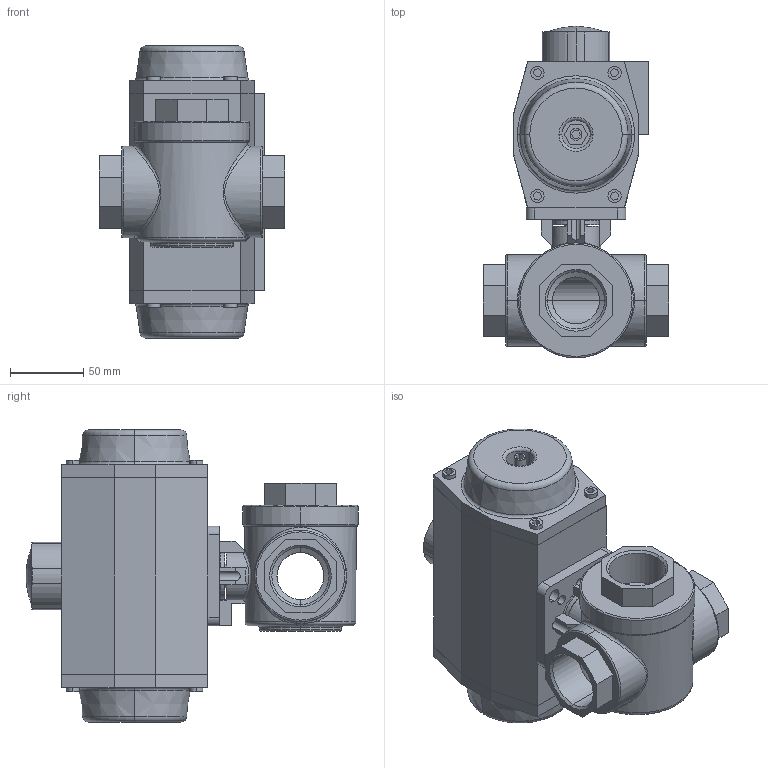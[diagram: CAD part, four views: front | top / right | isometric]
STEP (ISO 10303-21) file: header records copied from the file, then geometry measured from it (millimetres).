
FILE_DESCRIPTION (( 'STEP AP214' ), '1' );
FILE_NAME ('S57D DN32 G2 HB FB + AP3D.STEP', '2012-04-23T13:24:55', ( '' ), ( '' ), 'SwSTEP 2.0', 'SolidWorks 2011', '' );
FILE_SCHEMA (( 'AUTOMOTIVE_DESIGN' ));
Length unit declared in the file: millimetre
Products named in the file (3): AP3_Default<As Machined>; S57D DN32-G1 1_4 FB; S57D DN32 G2 HB FB + AP3D
Assembly tree (2 placements, depth 2):
  S57D DN32 G2 HB FB + AP3D
    AP3_Default<As Machined>
    S57D DN32-G1 1_4 FB
Bounding box: 126.7 x 226.19 x 199 mm (x, y, z)
Volume: 1930476.5 mm3; surface area: 182043.4 mm2
Topology: 9 solids, 9 shells, 461 faces, 1158 edges, 725 vertices
Faces by surface type: plane 240, cylinder 130, cone 52, torus 26, bspline 11, sphere 2
Entity records: 17053 total; most frequent: CARTESIAN_POINT 4503, DIRECTION 2339, ORIENTED_EDGE 2244, EDGE_CURVE 1122, AXIS2_PLACEMENT_3D 803, LINE 733, VECTOR 733, VERTEX_POINT 725
